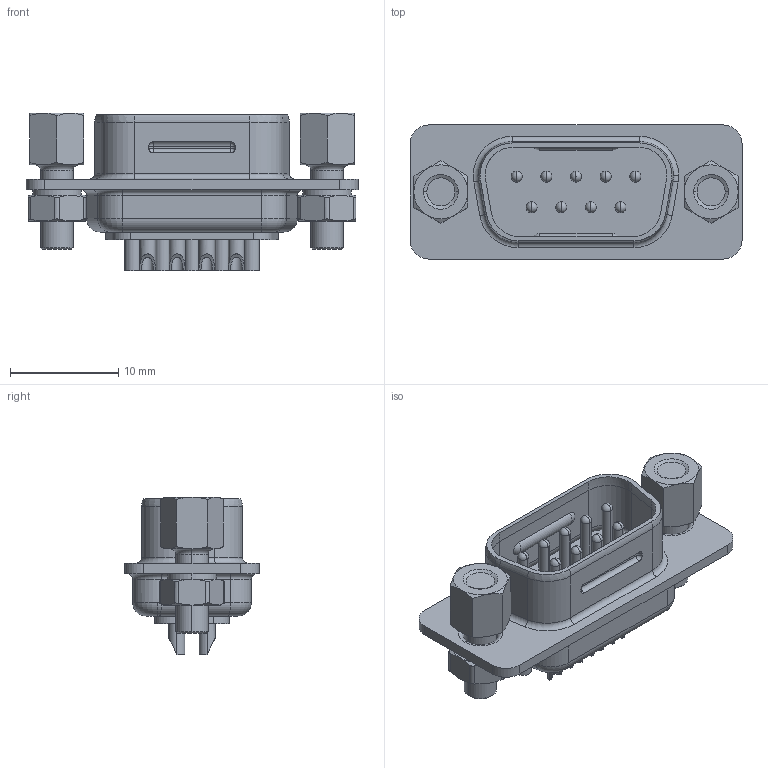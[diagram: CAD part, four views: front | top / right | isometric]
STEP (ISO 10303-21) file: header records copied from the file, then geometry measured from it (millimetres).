
FILE_DESCRIPTION (( 'STEP AP203' ), '1' );
FILE_NAME ('17JE-23090-02(D4A).STEP', '2021-07-30T05:00:47', ( '' ), ( '' ), 'SwSTEP 2.0', 'SolidWorks 2018', '' );
FILE_SCHEMA (( 'CONFIG_CONTROL_DESIGN' ));
Length unit declared in the file: millimetre
Products named in the file (1): 17JE-23090-02(D4A)
Bounding box: 30.7 x 12.4 x 14.6 mm (x, y, z)
Volume: 1692.3 mm3; surface area: 3088.3 mm2
Topology: 1 solids, 1 shells, 407 faces, 998 edges, 598 vertices
Faces by surface type: cylinder 176, plane 99, torus 74, cone 42, sphere 12, bspline 4
Entity records: 12998 total; most frequent: CARTESIAN_POINT 3362, DIRECTION 2149, ORIENTED_EDGE 1928, EDGE_CURVE 964, AXIS2_PLACEMENT_3D 899, VERTEX_POINT 594, CIRCLE 495, EDGE_LOOP 450
